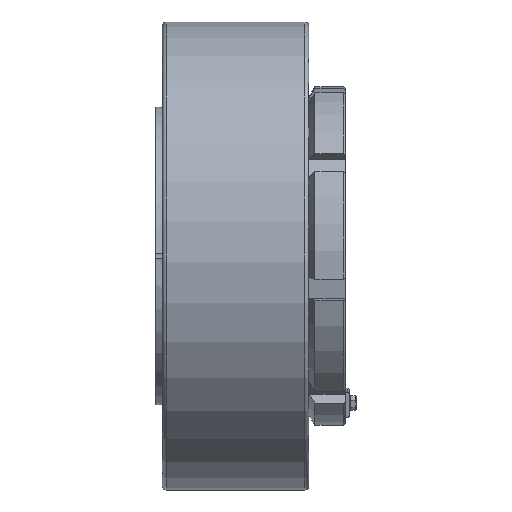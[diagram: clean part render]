
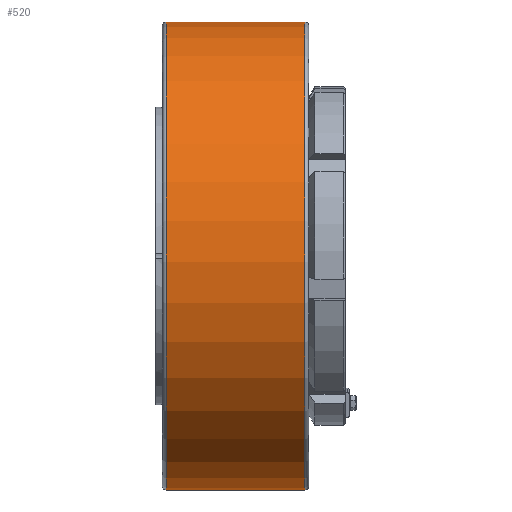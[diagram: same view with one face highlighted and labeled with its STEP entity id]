
A CAD part, front view. The second image highlights one B-rep face of the part: STEP entity #520.
In plain terms, the highlighted cylindrical face has radius 435 mm (diameter 870 mm), a full revolution.
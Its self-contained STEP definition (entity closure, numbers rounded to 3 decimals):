
#520 = ADVANCED_FACE( '', ( #1169, #1170 ), #1171, .T. );
#1169 = FACE_OUTER_BOUND( '', #1942, .T. );
#1170 = FACE_OUTER_BOUND( '', #1943, .T. );
#1171 = CYLINDRICAL_SURFACE( '', #1944, 435. );
#1942 = EDGE_LOOP( '', ( #4076 ) );
#1943 = EDGE_LOOP( '', ( #4077 ) );
#1944 = AXIS2_PLACEMENT_3D( '', #4078, #4079, #4080 );
#4076 = ORIENTED_EDGE( '', *, *, #5532, .T. );
#4077 = ORIENTED_EDGE( '', *, *, #5546, .F. );
#4078 = CARTESIAN_POINT( '', ( 0., 0., 0. ) );
#4079 = DIRECTION( '', ( -1., 0., 0. ) );
#4080 = DIRECTION( '', ( 0., 0., -1. ) );
#5532 = EDGE_CURVE( '', #6788, #6788, #6789, .T. );
#5546 = EDGE_CURVE( '', #6816, #6816, #6817, .T. );
#6788 = VERTEX_POINT( '', #8837 );
#6789 = CIRCLE( '', #8838, 435. );
#6816 = VERTEX_POINT( '', #8865 );
#6817 = CIRCLE( '', #8866, 435. );
#8837 = CARTESIAN_POINT( '', ( -344.5, 0., -435. ) );
#8838 = AXIS2_PLACEMENT_3D( '', #10408, #10409, #10410 );
#8865 = CARTESIAN_POINT( '', ( -87.5, 0., -435. ) );
#8866 = AXIS2_PLACEMENT_3D( '', #10450, #10451, #10452 );
#10408 = CARTESIAN_POINT( '', ( -344.5, 0., 0. ) );
#10409 = DIRECTION( '', ( 1., 0., 0. ) );
#10410 = DIRECTION( '', ( 0., 0., -1. ) );
#10450 = CARTESIAN_POINT( '', ( -87.5, 0., 0. ) );
#10451 = DIRECTION( '', ( 1., 0., 0. ) );
#10452 = DIRECTION( '', ( 0., 0., -1. ) );
